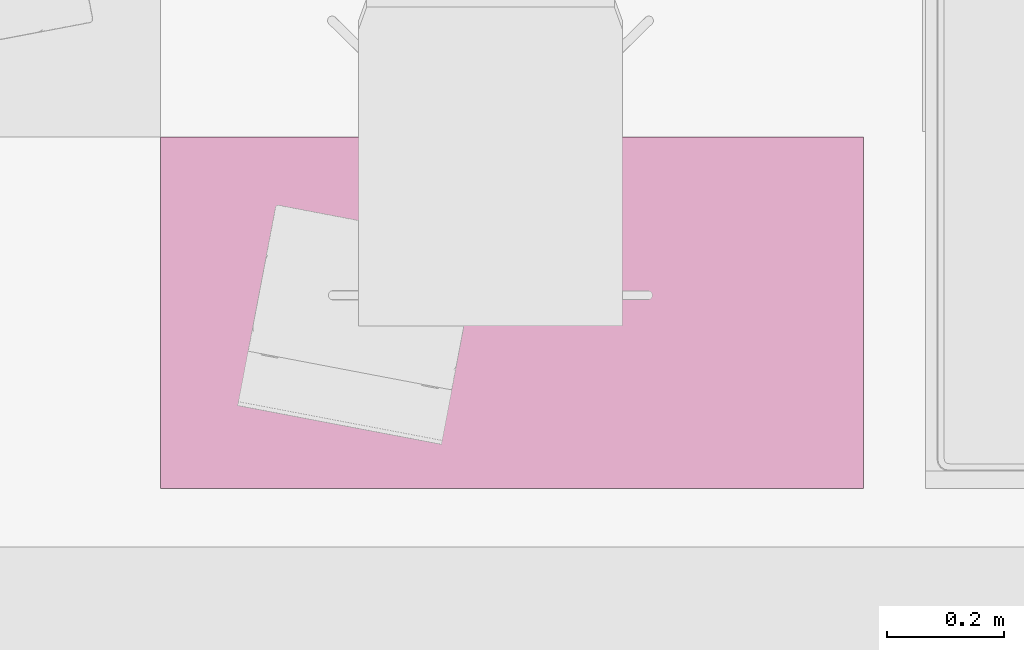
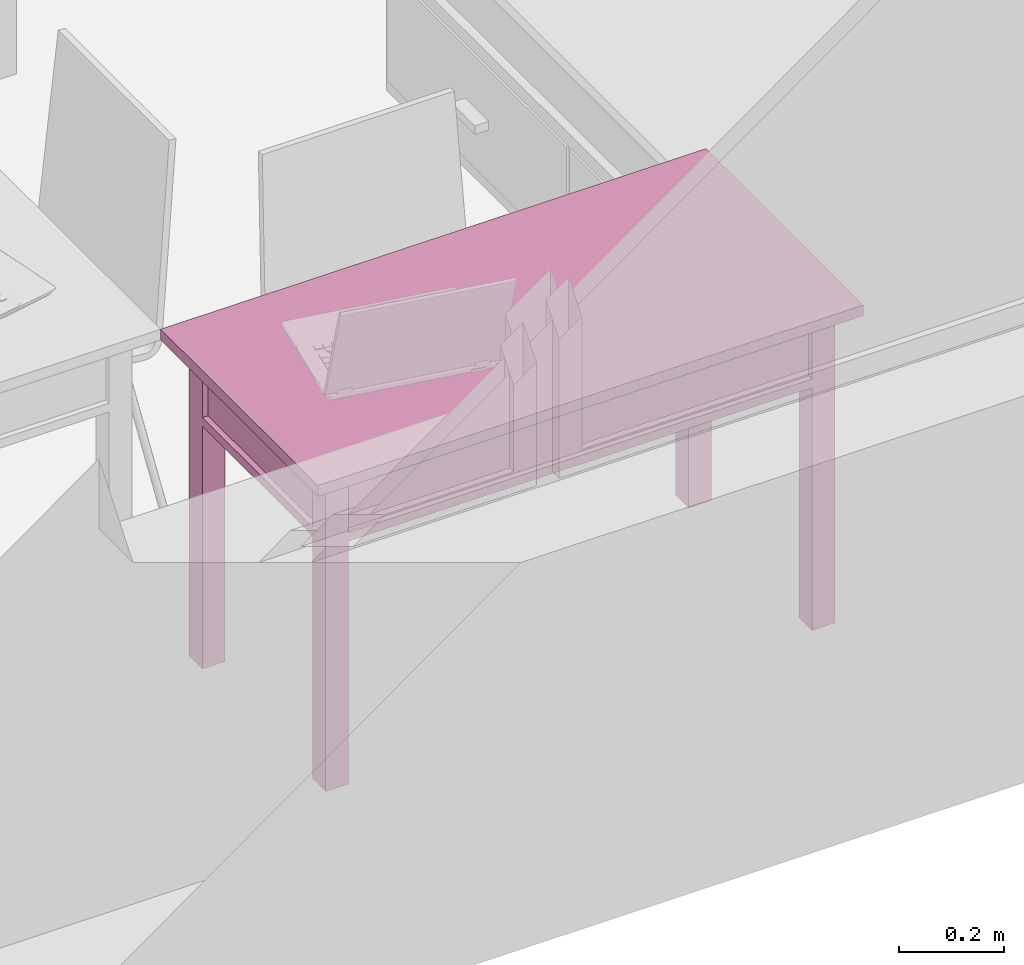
# One storey, part 74 of 172: 1 furnishing.
"""IFC2X3 building model written with IfcOpenShell, lengths in millimetres."""

from ifc_helpers import new_model, entity, si_unit, converted_unit, money_unit, direction, frame, origin_with_axes, place, context, subcontext, project, spatial, faceted_brep, source, transform, mapped, material, material_list, type_object, element, save


model = new_model("IFC2X3")

# Units and contexts
model_context = context("Model", 3, precision=1e-05, world=origin_with_axes(), true_north=direction((0.0, 1.0)))
body_context = subcontext(model_context, "Body", "Model", "MODEL_VIEW")
ifc_project = project(units=[si_unit("LENGTHUNIT", "METRE", prefix="MILLI"), si_unit("AREAUNIT", "SQUARE_METRE"), si_unit("VOLUMEUNIT", "CUBIC_METRE"), converted_unit("PLANEANGLEUNIT", "DEGREE", entity("IfcPlaneAngleMeasure", 0.0174532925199), si_unit("PLANEANGLEUNIT", "RADIAN"), dimensions=[0, 0, 0, 0, 0, 0, 0]), si_unit("SOLIDANGLEUNIT", "STERADIAN"), money_unit("USD"), converted_unit("TIMEUNIT", "Year", entity("IfcTimeMeasure", 31556926.0), si_unit("TIMEUNIT", "SECOND"), dimensions=[0, 0, 0, 0, 0, 0, 0]), si_unit("MASSUNIT", "GRAM"), si_unit("THERMODYNAMICTEMPERATUREUNIT", "DEGREE_CELSIUS"), si_unit("LUMINOUSINTENSITYUNIT", "LUMEN")], contexts=[model_context])

# Site, building, storey
site_placement = place(None, origin_with_axes())
site = spatial("IfcSite", under=ifc_project, at=site_placement, Name="Site", CompositionType="ELEMENT")
building_placement = place(site_placement, origin_with_axes())
building = spatial("IfcBuilding", under=site, at=building_placement, Name="Building", CompositionType="ELEMENT")
storey_placement = place(building_placement, frame((0.0, 0.0, 3200.0), z_axis=(0.0, 0.0, 1.0), x_axis=(1.0, 0.0, 0.0)))
storey = spatial("IfcBuildingStorey", under=building, at=storey_placement, Name="3KORRUS", CompositionType="ELEMENT", Elevation=3200.0)

# Furnishing
ifc_material = material(Name="Background")
ifc_material_list = material_list([ifc_material])
furnishing_element_type = type_object("IfcFurnishingElementType", Name="Rectangular Table 01 19")
shared_shape = source(origin_with_axes(), body_context, "Body", "Brep", [
    faceted_brep([(-90.0, 40.0, 0.0), (-90.0, 90.0, 0.0), (-40.0, 90.0, 0.0), (-40.0, 40.0, 0.0), (-90.0, 40.0, 725.0), (-90.0, 90.0, 725.0), (-40.0, 90.0, 725.0), (-40.0, 40.0, 725.0)], [[[0, 1, 2, 3]], [[0, 4, 5, 1]], [[1, 5, 6, 2]], [[2, 6, 7, 3]], [[3, 7, 4, 0]], [[7, 6, 5, 4]]]),
    faceted_brep([(-1160.0, 40.0, 0.0), (-1160.0, 90.0, 0.0), (-1110.0, 90.0, 0.0), (-1110.0, 40.0, 0.0), (-1160.0, 40.0, 725.0), (-1160.0, 90.0, 725.0), (-1110.0, 90.0, 725.0), (-1110.0, 40.0, 725.0)], [[[0, 1, 2, 3]], [[0, 4, 5, 1]], [[1, 5, 6, 2]], [[2, 6, 7, 3]], [[3, 7, 4, 0]], [[7, 6, 5, 4]]]),
    faceted_brep([(-90.0, 510.0, 0.0), (-90.0, 560.0, 0.0), (-40.0, 560.0, 0.0), (-40.0, 510.0, 0.0), (-90.0, 510.0, 725.0), (-90.0, 560.0, 725.0), (-40.0, 560.0, 725.0), (-40.0, 510.0, 725.0)], [[[0, 1, 2, 3]], [[0, 4, 5, 1]], [[1, 5, 6, 2]], [[2, 6, 7, 3]], [[3, 7, 4, 0]], [[7, 6, 5, 4]]]),
    faceted_brep([(-1160.0, 510.0, 0.0), (-1160.0, 560.0, 0.0), (-1110.0, 560.0, 0.0), (-1110.0, 510.0, 0.0), (-1160.0, 510.0, 725.0), (-1160.0, 560.0, 725.0), (-1110.0, 560.0, 725.0), (-1110.0, 510.0, 725.0)], [[[0, 1, 2, 3]], [[0, 4, 5, 1]], [[1, 5, 6, 2]], [[2, 6, 7, 3]], [[3, 7, 4, 0]], [[7, 6, 5, 4]]]),
    faceted_brep([(-1160.0, 40.0, 565.0), (-1160.0, 560.0, 565.0), (-40.0, 560.0, 565.0), (-40.0, 40.0, 565.0), (-1160.0, 40.0, 585.0), (-1160.0, 560.0, 585.0), (-40.0, 560.0, 585.0), (-40.0, 40.0, 585.0)], [[[0, 1, 2, 3]], [[0, 4, 5, 1]], [[1, 5, 6, 2]], [[2, 6, 7, 3]], [[3, 7, 4, 0]], [[7, 6, 5, 4]]]),
    faceted_brep([(-1110.0, 52.5, 585.0), (-1110.0, 77.5, 585.0), (-90.0, 77.5, 585.0), (-90.0, 52.5, 585.0), (-1110.0, 52.5, 745.0), (-1110.0, 77.5, 745.0), (-90.0, 77.5, 745.0), (-90.0, 52.5, 745.0)], [[[0, 1, 2, 3]], [[0, 4, 5, 1]], [[1, 5, 6, 2]], [[2, 6, 7, 3]], [[3, 7, 4, 0]], [[7, 6, 5, 4]]]),
    faceted_brep([(-77.5, 90.0, 585.0), (-77.5, 510.0, 585.0), (-52.5, 510.0, 585.0), (-52.5, 90.0, 585.0), (-77.5, 90.0, 745.0), (-77.5, 510.0, 745.0), (-52.5, 510.0, 745.0), (-52.5, 90.0, 745.0)], [[[0, 1, 2, 3]], [[0, 4, 5, 1]], [[1, 5, 6, 2]], [[2, 6, 7, 3]], [[3, 7, 4, 0]], [[7, 6, 5, 4]]]),
    faceted_brep([(-90.0, 547.5, 585.0), (-90.0, 522.5, 585.0), (-1110.0, 522.5, 585.0), (-1110.0, 547.5, 585.0), (-90.0, 547.5, 745.0), (-90.0, 522.5, 745.0), (-1110.0, 522.5, 745.0), (-1110.0, 547.5, 745.0)], [[[0, 1, 2, 3]], [[0, 4, 5, 1]], [[1, 5, 6, 2]], [[2, 6, 7, 3]], [[3, 7, 4, 0]], [[7, 6, 5, 4]]]),
    faceted_brep([(-1122.5, 510.0, 585.0), (-1122.5, 90.0, 585.0), (-1147.5, 90.0, 585.0), (-1147.5, 510.0, 585.0), (-1122.5, 510.0, 745.0), (-1122.5, 90.0, 745.0), (-1147.5, 90.0, 745.0), (-1147.5, 510.0, 745.0)], [[[0, 1, 2, 3]], [[0, 4, 5, 1]], [[1, 5, 6, 2]], [[2, 6, 7, 3]], [[3, 7, 4, 0]], [[7, 6, 5, 4]]]),
    faceted_brep([(-597.5, 40.0, 585.0), (-597.5, 60.0, 585.0), (-95.0, 60.0, 585.0), (-95.0, 40.0, 585.0), (-597.5, 40.0, 745.0), (-597.5, 60.0, 745.0), (-95.0, 60.0, 745.0), (-95.0, 40.0, 745.0)], [[[0, 1, 2, 3]], [[0, 4, 5, 1]], [[1, 5, 6, 2]], [[2, 6, 7, 3]], [[3, 7, 4, 0]], [[7, 6, 5, 4]]]),
    faceted_brep([(-1105.0, 40.0, 585.0), (-1105.0, 60.0, 585.0), (-602.5, 60.0, 585.0), (-602.5, 40.0, 585.0), (-1105.0, 40.0, 745.0), (-1105.0, 60.0, 745.0), (-602.5, 60.0, 745.0), (-602.5, 40.0, 745.0)], [[[0, 1, 2, 3]], [[0, 4, 5, 1]], [[1, 5, 6, 2]], [[2, 6, 7, 3]], [[3, 7, 4, 0]], [[7, 6, 5, 4]]]),
    faceted_brep([(-354.91, 40.0, 660.0), (-356.25, 40.0, 665.0), (-354.91, 40.0, 670.0), (-351.25, 40.0, 673.66), (-346.25, 40.0, 675.0), (-341.25, 40.0, 673.66), (-337.59, 40.0, 670.0), (-336.25, 40.0, 665.0), (-337.59, 40.0, 660.0), (-341.25, 40.0, 656.34), (-346.25, 40.0, 655.0), (-351.25, 40.0, 656.34), (-354.91, 25.0, 660.0), (-356.25, 25.0, 665.0), (-354.91, 25.0, 670.0), (-351.25, 25.0, 673.66), (-346.25, 25.0, 675.0), (-341.25, 25.0, 673.66), (-337.59, 25.0, 670.0), (-336.25, 25.0, 665.0), (-337.59, 25.0, 660.0), (-341.25, 25.0, 656.34), (-346.25, 25.0, 655.0), (-351.25, 25.0, 656.34)], [[[0, 1, 2, 3, 4, 5, 6, 7, 8, 9, 10, 11]], [[0, 12, 13, 1]], [[1, 13, 14, 2]], [[2, 14, 15, 3]], [[3, 15, 16, 4]], [[4, 16, 17, 5]], [[5, 17, 18, 6]], [[6, 18, 19, 7]], [[7, 19, 20, 8]], [[8, 20, 21, 9]], [[9, 21, 22, 10]], [[10, 22, 23, 11]], [[11, 23, 12, 0]], [[12, 23, 22, 21, 20, 19, 18, 17, 16, 15, 14, 13]]]),
    faceted_brep([(-356.25, 12.01, 665.0), (-354.91, 12.01, 660.0), (-346.25, 10.0, 665.0), (-363.571, 17.5, 665.0), (-361.25, 17.5, 656.34), (-351.25, 12.01, 656.34), (-354.91, 12.01, 670.0), (-366.25, 25.0, 665.0), (-363.571, 25.0, 655.0), (-354.91, 17.5, 650.0), (-361.25, 17.5, 673.66), (-346.25, 12.01, 655.0), (-351.25, 12.01, 673.66), (-363.571, 25.0, 675.0), (-356.25, 25.0, 682.321), (-346.25, 25.0, 685.0), (-336.25, 25.0, 682.321), (-328.929, 25.0, 675.0), (-326.25, 25.0, 665.0), (-328.929, 25.0, 655.0), (-336.25, 25.0, 647.679), (-346.25, 25.0, 645.0), (-356.25, 25.0, 647.679), (-346.25, 17.5, 647.679), (-354.91, 17.5, 680.0), (-341.25, 12.01, 656.34), (-346.25, 12.01, 675.0), (-346.25, 17.5, 682.321), (-337.59, 17.5, 680.0), (-331.25, 17.5, 673.66), (-328.929, 17.5, 665.0), (-331.25, 17.5, 656.34), (-337.59, 17.5, 650.0), (-337.59, 12.01, 660.0), (-341.25, 12.01, 673.66), (-337.59, 12.01, 670.0), (-336.25, 12.01, 665.0)], [[[0, 1, 2]], [[3, 4, 1, 0]], [[1, 5, 2]], [[6, 0, 2]], [[7, 8, 4, 3]], [[4, 9, 5, 1]], [[10, 3, 0, 6]], [[5, 11, 2]], [[12, 6, 2]], [[8, 7, 13, 14, 15, 16, 17, 18, 19, 20, 21, 22]], [[8, 22, 9, 4]], [[13, 7, 3, 10]], [[9, 23, 11, 5]], [[24, 10, 6, 12]], [[11, 25, 2]], [[26, 12, 2]], [[14, 13, 10, 24]], [[15, 14, 24, 27]], [[16, 15, 27, 28]], [[17, 16, 28, 29]], [[18, 17, 29, 30]], [[19, 18, 30, 31]], [[20, 19, 31, 32]], [[21, 20, 32, 23]], [[22, 21, 23, 9]], [[23, 32, 25, 11]], [[27, 24, 12, 26]], [[25, 33, 2]], [[34, 26, 2]], [[28, 27, 26, 34]], [[29, 28, 34, 35]], [[30, 29, 35, 36]], [[31, 30, 36, 33]], [[32, 31, 33, 25]], [[33, 36, 2]], [[35, 34, 2]], [[36, 35, 2]]]),
    faceted_brep([(-862.41, 40.0, 660.0), (-863.75, 40.0, 665.0), (-862.41, 40.0, 670.0), (-858.75, 40.0, 673.66), (-853.75, 40.0, 675.0), (-848.75, 40.0, 673.66), (-845.09, 40.0, 670.0), (-843.75, 40.0, 665.0), (-845.09, 40.0, 660.0), (-848.75, 40.0, 656.34), (-853.75, 40.0, 655.0), (-858.75, 40.0, 656.34), (-862.41, 25.0, 660.0), (-863.75, 25.0, 665.0), (-862.41, 25.0, 670.0), (-858.75, 25.0, 673.66), (-853.75, 25.0, 675.0), (-848.75, 25.0, 673.66), (-845.09, 25.0, 670.0), (-843.75, 25.0, 665.0), (-845.09, 25.0, 660.0), (-848.75, 25.0, 656.34), (-853.75, 25.0, 655.0), (-858.75, 25.0, 656.34)], [[[0, 1, 2, 3, 4, 5, 6, 7, 8, 9, 10, 11]], [[0, 12, 13, 1]], [[1, 13, 14, 2]], [[2, 14, 15, 3]], [[3, 15, 16, 4]], [[4, 16, 17, 5]], [[5, 17, 18, 6]], [[6, 18, 19, 7]], [[7, 19, 20, 8]], [[8, 20, 21, 9]], [[9, 21, 22, 10]], [[10, 22, 23, 11]], [[11, 23, 12, 0]], [[12, 23, 22, 21, 20, 19, 18, 17, 16, 15, 14, 13]]]),
    faceted_brep([(-863.75, 12.01, 665.0), (-862.41, 12.01, 660.0), (-853.75, 10.0, 665.0), (-871.071, 17.5, 665.0), (-868.75, 17.5, 656.34), (-858.75, 12.01, 656.34), (-862.41, 12.01, 670.0), (-873.75, 25.0, 665.0), (-871.071, 25.0, 655.0), (-862.41, 17.5, 650.0), (-868.75, 17.5, 673.66), (-853.75, 12.01, 655.0), (-858.75, 12.01, 673.66), (-871.071, 25.0, 675.0), (-863.75, 25.0, 682.321), (-853.75, 25.0, 685.0), (-843.75, 25.0, 682.321), (-836.429, 25.0, 675.0), (-833.75, 25.0, 665.0), (-836.429, 25.0, 655.0), (-843.75, 25.0, 647.679), (-853.75, 25.0, 645.0), (-863.75, 25.0, 647.679), (-853.75, 17.5, 647.679), (-862.41, 17.5, 680.0), (-848.75, 12.01, 656.34), (-853.75, 12.01, 675.0), (-853.75, 17.5, 682.321), (-845.09, 17.5, 680.0), (-838.75, 17.5, 673.66), (-836.429, 17.5, 665.0), (-838.75, 17.5, 656.34), (-845.09, 17.5, 650.0), (-845.09, 12.01, 660.0), (-848.75, 12.01, 673.66), (-845.09, 12.01, 670.0), (-843.75, 12.01, 665.0)], [[[0, 1, 2]], [[3, 4, 1, 0]], [[1, 5, 2]], [[6, 0, 2]], [[7, 8, 4, 3]], [[4, 9, 5, 1]], [[10, 3, 0, 6]], [[5, 11, 2]], [[12, 6, 2]], [[8, 7, 13, 14, 15, 16, 17, 18, 19, 20, 21, 22]], [[8, 22, 9, 4]], [[13, 7, 3, 10]], [[9, 23, 11, 5]], [[24, 10, 6, 12]], [[11, 25, 2]], [[26, 12, 2]], [[14, 13, 10, 24]], [[15, 14, 24, 27]], [[16, 15, 27, 28]], [[17, 16, 28, 29]], [[18, 17, 29, 30]], [[19, 18, 30, 31]], [[20, 19, 31, 32]], [[21, 20, 32, 23]], [[22, 21, 23, 9]], [[23, 32, 25, 11]], [[27, 24, 12, 26]], [[25, 33, 2]], [[34, 26, 2]], [[28, 27, 26, 34]], [[29, 28, 34, 35]], [[30, 29, 35, 36]], [[31, 30, 36, 33]], [[32, 31, 33, 25]], [[33, 36, 2]], [[35, 34, 2]], [[36, 35, 2]]]),
    faceted_brep([(-1200.0, 0.0, 725.0), (-1200.0, 600.0, 725.0), (0.0, 600.0, 725.0), (0.0, 0.0, 725.0), (-1200.0, 0.0, 750.0), (-1200.0, 600.0, 750.0), (0.0, 600.0, 750.0), (0.0, 0.0, 750.0)], [[[0, 1, 2, 3]], [[0, 4, 5, 1]], [[1, 5, 6, 2]], [[2, 6, 7, 3]], [[3, 7, 4, 0]], [[7, 6, 5, 4]]]),
])
furnishing_placement = place(storey_placement, frame((-50495.8669764, -18939.2398994, 0.0), z_axis=(0.0, 0.0, 1.0), x_axis=(-1.0, 0.0, 0.0)))
element("IfcFurnishingElement", 1, at=furnishing_placement, inside=storey, type_object=furnishing_element_type, material=ifc_material_list, Name="FU - 011", context=body_context, shape_type="MappedRepresentation", body=[
    mapped(shared_shape, transform((0.0, 0.0, 0.0))),
])

save(model, "model.ifc")
